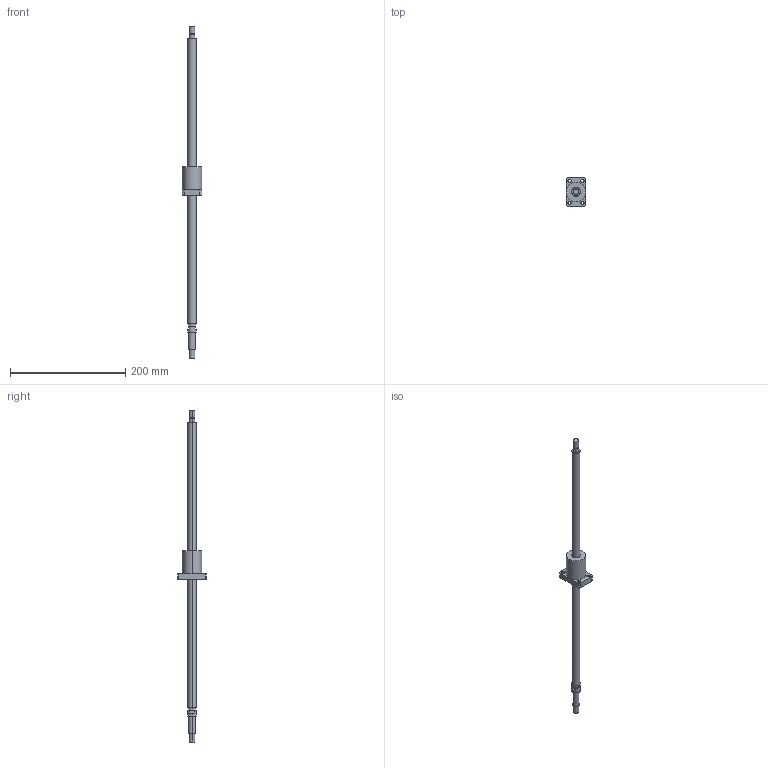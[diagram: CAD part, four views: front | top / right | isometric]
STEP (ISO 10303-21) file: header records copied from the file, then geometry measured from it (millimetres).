
FILE_DESCRIPTION((''),'2;1');
FILE_NAME('R15-10K3-FSC-489-571','2008-03-28T',('mahdi'),(''),'PRO/ENGINEER BY PARAMETRIC TECHNOLOGY CORPORATION, 2005070','PRO/ENGINEER BY PARAMETRIC TECHNOLOGY CORPORATION, 2005070','');
FILE_SCHEMA(('CONFIG_CONTROL_DESIGN'));
Length unit declared in the file: millimetre
Products named in the file (1): R15-10K3-FSC-489-571
Bounding box: 34 x 50 x 577 mm (x, y, z)
Volume: 138366.4 mm3; surface area: 34098.2 mm2
Topology: 1 solids, 1 shells, 66 faces, 148 edges, 96 vertices
Faces by surface type: cylinder 40, plane 26
Entity records: 1926 total; most frequent: DIRECTION 364, CARTESIAN_POINT 310, ORIENTED_EDGE 296, AXIS2_PLACEMENT_3D 150, EDGE_CURVE 148, VERTEX_POINT 96, EDGE_LOOP 86, CIRCLE 84
